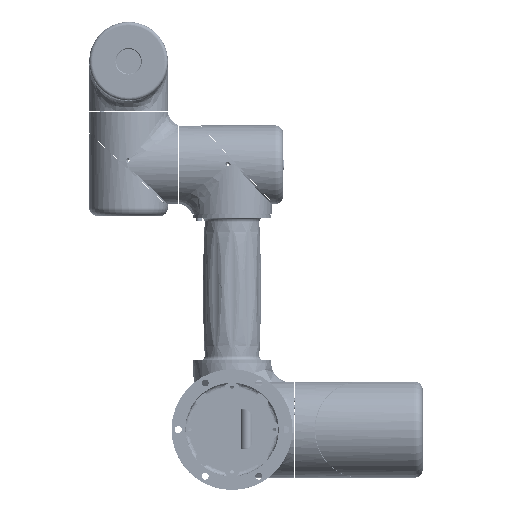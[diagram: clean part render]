
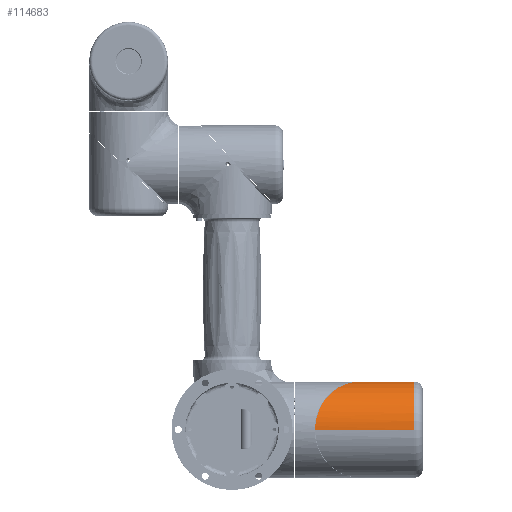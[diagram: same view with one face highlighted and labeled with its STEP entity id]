
A CAD part, front view. The second image highlights one B-rep face of the part: STEP entity #114683.
In plain terms, the highlighted cylindrical face has radius 58 mm (diameter 116 mm), a partial arc.
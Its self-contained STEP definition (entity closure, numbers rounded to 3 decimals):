
#110371=DIRECTION('',(1.,0.,0.));
#110372=VECTOR('',#110371,120.);
#110373=CARTESIAN_POINT('',(100.5,53.791,
146.));
#110374=LINE('',#110373,#110372);
#110375=DIRECTION('',(1.,0.,0.));
#110376=VECTOR('',#110375,11.828);
#110377=CARTESIAN_POINT('',(208.672,169.791,
146.));
#110378=LINE('',#110377,#110376);
#110379=CARTESIAN_POINT('',(208.672,169.791,
146.));
#110380=CARTESIAN_POINT('',(208.672,169.791,
152.835));
#110381=CARTESIAN_POINT('',(206.362,167.314,
167.609));
#110382=CARTESIAN_POINT('',(196.036,156.241,
184.78));
#110383=CARTESIAN_POINT('',(184.353,143.712,
194.912));
#110384=CARTESIAN_POINT('',(174.565,133.216,
200.315));
#110385=CARTESIAN_POINT('',(164.353,122.265,
203.393));
#110386=CARTESIAN_POINT('',(154.586,111.791,
204.304));
#110387=CARTESIAN_POINT('',(144.818,101.316,
203.393));
#110388=CARTESIAN_POINT('',(134.606,90.365,
200.315));
#110389=CARTESIAN_POINT('',(124.819,79.869,
194.912));
#110390=CARTESIAN_POINT('',(113.135,67.34,
184.78));
#110391=CARTESIAN_POINT('',(102.81,56.268,
167.609));
#110392=CARTESIAN_POINT('',(100.5,53.791,
152.835));
#110393=CARTESIAN_POINT('',(100.5,53.791,
146.));
#110395=CARTESIAN_POINT('',(220.5,111.791,
146.));
#110396=DIRECTION('',(1.,0.,0.));
#110397=DIRECTION('',(0.,1.,0.));
#110398=AXIS2_PLACEMENT_3D('',#110395,#110396,#110397);
#114350=CARTESIAN_POINT('',(220.5,169.791,
146.));
#114351=VERTEX_POINT('',#114350);
#114352=CARTESIAN_POINT('',(220.5,53.791,
146.));
#114353=VERTEX_POINT('',#114352);
#114354=CARTESIAN_POINT('',(208.672,169.791,
146.));
#114355=VERTEX_POINT('',#114354);
#114356=CARTESIAN_POINT('',(100.5,53.791,
146.));
#114357=VERTEX_POINT('',#114356);
#114671=CARTESIAN_POINT('',(100.5,111.791,
146.));
#114672=DIRECTION('',(1.,0.,0.));
#114673=DIRECTION('',(0.,1.,0.));
#114674=AXIS2_PLACEMENT_3D('',#114671,#114672,#114673);
#114675=CYLINDRICAL_SURFACE('',#114674,58.);
#114676=ORIENTED_EDGE('',*,*,#114608,.F.);
#114677=ORIENTED_EDGE('',*,*,#114666,.T.);
#114679=ORIENTED_EDGE('',*,*,#114678,.T.);
#114680=ORIENTED_EDGE('',*,*,#114662,.F.);
#114681=EDGE_LOOP('',(#114676,#114677,#114679,#114680));
#114682=FACE_OUTER_BOUND('',#114681,.F.);
#114683=ADVANCED_FACE('',(#114682),#114675,.T.);
#110394=B_SPLINE_CURVE_WITH_KNOTS('',3,(#110379,#110380,#110381,#110382,#110383,
#110384,#110385,#110386,#110387,#110388,#110389,#110390,#110391,#110392,
#110393),.UNSPECIFIED.,.F.,.F.,(4,1,1,1,1,1,1,1,1,1,1,1,4),(0.,0.125,0.25,
0.313,0.375,0.438,0.5,0.563,0.625,0.688,0.75,0.875,1.),
.UNSPECIFIED.);
#110399=CIRCLE('',#110398,58.);
#114608=EDGE_CURVE('',#114355,#114357,#110394,.T.);
#114662=EDGE_CURVE('',#114357,#114353,#110374,.T.);
#114666=EDGE_CURVE('',#114355,#114351,#110378,.T.);
#114678=EDGE_CURVE('',#114351,#114353,#110399,.T.);
